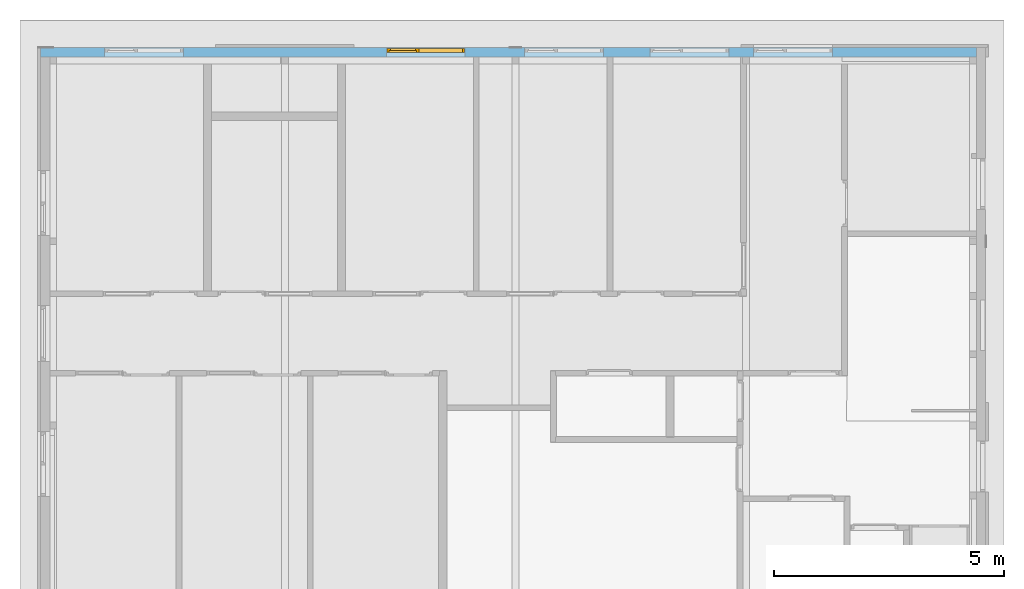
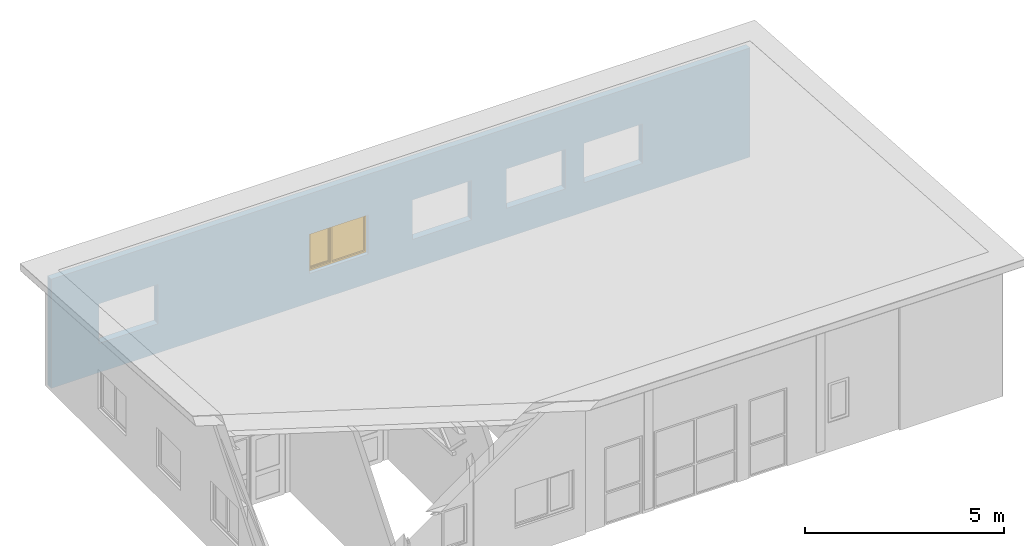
# One storey, part 26 of 37: 1 window, 5 openings, plus 1 element that does not belong to this part.
"""IFC2X3 building model written with IfcOpenShell, lengths in millimetres."""

from ifc_helpers import new_model, entity, si_unit, converted_unit, frame, frame_2d, origin, origin_with_axes, place, context, subcontext, project, spatial, rectangle, extrude, clip, halfspace, faceted_brep, material, layer, layer_set, layer_usage, type_object, element, fill, save


model = new_model("IFC2X3")

# Units and contexts
model_context = context("Model", 3, precision=1e-05, world=origin())
plan_context = context("Plan", 3, precision=1e-05, world=origin())
body_context = subcontext(model_context, "Body", "Model", "MODEL_VIEW")
ifc_project = project(units=[si_unit("LENGTHUNIT", "METRE", prefix="MILLI"), converted_unit("PLANEANGLEUNIT", "DEGREE", entity("IfcPlaneAngleMeasure", 0.0174532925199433), si_unit("PLANEANGLEUNIT", "RADIAN"), dimensions=[0, 0, 0, 0, 0, 0, 0]), si_unit("AREAUNIT", "SQUARE_METRE"), si_unit("VOLUMEUNIT", "CUBIC_METRE")], contexts=[model_context, plan_context])

# Building, storey
building_placement = place(None, origin())
building = spatial("IfcBuilding", under=ifc_project, at=building_placement, Name="HEKF Administrasjonbygg", CompositionType="ELEMENT")
storey_placement = place(building_placement, frame((0.0, 0.0, 9900.0), z_axis=(0.0, 0.0, 1.0), x_axis=(1.0, 0.0, 0.0)))
storey = spatial("IfcBuildingStorey", under=building, at=storey_placement, Name="Plan 2", CompositionType="ELEMENT", Elevation=9900.0)

# Wall, openings, window
ifc_material_1 = material(Name="Paroc 200")
ifc_layer = layer(ifc_material_1, 200.0)
ifc_layer_set = layer_set([ifc_layer])
ifc_layer_usage = layer_usage(ifc_layer_set, "AXIS2", "POSITIVE", 0.0)
wall_placement = place(storey_placement, frame((9699.999999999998, 0.0, 0.0), z_axis=(0.0, 0.0, 1.0), x_axis=(1.0, 0.0, 0.0)))
wall = element("IfcWallStandardCase", 1, at=wall_placement, inside=storey, material=ifc_layer_usage, context=body_context, shape_type="Clipping", body=[
    clip(extrude(rectangle(XDim=20300.0, YDim=200.0, at=frame_2d((10150.0, 100.0), x_axis=(1.0, 0.0))), origin_with_axes(), (0.0, 0.0, 1.0), 3349.999999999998), halfspace(frame((0.0, 0.0, 3349.999999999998), z_axis=(0.0, -0.06651901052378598, -0.9977851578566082), x_axis=(1.0, 0.0, 0.0)), True)),
])
opening_1_placement = place(wall_placement, frame((15470.0, 0.0, 900.0), z_axis=(0.0, 1.0, 0.0), x_axis=(0.0, 0.0, 1.0)))
element("IfcOpeningElement", 2, at=opening_1_placement, cuts=wall, Name="Window opening", ObjectType="Opening", context=body_context, shape_type="SweptSolid", body=[
    extrude(rectangle(XDim=1210.0, YDim=1710.0, at=frame_2d((605.0, 855.0), x_axis=(1.0, 0.0))), origin_with_axes(), (0.0, 0.0, 1.0), 200.0),
])
opening_2_placement = place(wall_placement, frame((7500.000000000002, 0.0, 900.0), z_axis=(0.0, 1.0, 0.0), x_axis=(0.0, 0.0, 1.0)))
opening_2 = element("IfcOpeningElement", 3, at=opening_2_placement, cuts=wall, Name="Window opening", ObjectType="Opening", context=body_context, shape_type="SweptSolid", body=[
    extrude(rectangle(XDim=1210.0, YDim=1710.0, at=frame_2d((605.0, 855.0), x_axis=(1.0, 0.0))), origin_with_axes(), (0.0, 0.0, 1.0), 200.0),
])
opening_3_placement = place(wall_placement, frame((13220.0, 0.0, 900.0), z_axis=(0.0, 1.0, 0.0), x_axis=(0.0, 0.0, 1.0)))
element("IfcOpeningElement", 4, at=opening_3_placement, cuts=wall, Name="Window opening", ObjectType="Opening", context=body_context, shape_type="SweptSolid", body=[
    extrude(rectangle(XDim=1210.0, YDim=1710.0, at=frame_2d((605.0, 855.0), x_axis=(1.0, 0.0))), origin_with_axes(), (0.0, 0.0, 1.0), 200.0),
])
opening_4_placement = place(wall_placement, frame((10500.0, 0.0, 900.0), z_axis=(0.0, 1.0, 0.0), x_axis=(0.0, 0.0, 1.0)))
element("IfcOpeningElement", 5, at=opening_4_placement, cuts=wall, Name="Window opening", ObjectType="Opening", context=body_context, shape_type="SweptSolid", body=[
    extrude(rectangle(XDim=1210.0, YDim=1710.0, at=frame_2d((605.0, 855.0), x_axis=(1.0, 0.0))), origin_with_axes(), (0.0, 0.0, 1.0), 200.0),
])
opening_5_placement = place(wall_placement, frame((1390.000000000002, 0.0, 900.0), z_axis=(0.0, 1.0, 0.0), x_axis=(0.0, 0.0, 1.0)))
element("IfcOpeningElement", 6, at=opening_5_placement, cuts=wall, Name="Window opening", ObjectType="Opening", context=body_context, shape_type="SweptSolid", body=[
    extrude(rectangle(XDim=1210.0, YDim=1710.0, at=frame_2d((605.0, 855.0), x_axis=(1.0, 0.0))), origin_with_axes(), (0.0, 0.0, 1.0), 200.0),
])
ifc_material_2 = material()
window_style = type_object("IfcWindowStyle", Name="V213", ConstructionType="NOTDEFINED", OperationType="USERDEFINED", ParameterTakesPrecedence=False, Sizeable=False)
window_placement = place(opening_2_placement, frame((0.0, 0.0, 0.0), z_axis=(1.0, 0.0, 0.0), x_axis=(0.0, 1.0, 0.0)))
window = element("IfcWindow", 7, at=window_placement, inside=storey, type_object=window_style, material=ifc_material_2, Name="V213", OverallHeight=1210.0, OverallWidth=1710.0, context=body_context, shape_type="Brep", body=[
    faceted_brep([(1700.0, 93.99999999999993, 1200.0), (1700.0, 94.0, 9.999999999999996), (1650.0, 94.00000000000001, 9.999999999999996), (1650.0, 93.99999999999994, 1200.0), (1700.0, 186.0, 10.0), (1700.0, 185.9999999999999, 1200.0), (1650.0, 185.9999999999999, 1200.0), (1650.0, 186.0, 10.0), (1700.0, 94.0, 9.999999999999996), (1700.0, 93.99999999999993, 1200.0), (1700.0, 185.9999999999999, 1200.0), (1700.0, 186.0, 10.0), (1650.0, 94.00000000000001, 9.999999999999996), (1700.0, 94.0, 9.999999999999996), (1700.0, 186.0, 10.0), (1650.0, 186.0, 10.0), (1650.0, 93.99999999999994, 1200.0), (1650.0, 94.00000000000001, 9.999999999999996), (1650.0, 186.0, 10.0), (1650.0, 185.9999999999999, 1200.0), (1700.0, 93.99999999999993, 1200.0), (1650.0, 93.99999999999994, 1200.0), (1650.0, 185.9999999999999, 1200.0), (1700.0, 185.9999999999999, 1200.0)], [[[0, 1, 2, 3]], [[4, 5, 6, 7]], [[8, 9, 10, 11]], [[12, 13, 14, 15]], [[16, 17, 18, 19]], [[20, 21, 22, 23]]], orient=[[False], [False], [False], [False], [False], [False]]),
    faceted_brep([(60.0, 94.00000000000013, 1200.0), (60.0, 94.0000000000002, 9.999999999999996), (10.0, 94.00000000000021, 9.999999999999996), (10.0, 94.00000000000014, 1200.0), (60.0, 186.0000000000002, 10.0), (60.0, 186.0000000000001, 1200.0), (10.0, 186.0000000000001, 1200.0), (10.0, 186.0000000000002, 10.0), (60.0, 94.0000000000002, 9.999999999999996), (60.0, 94.00000000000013, 1200.0), (60.0, 186.0000000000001, 1200.0), (60.0, 186.0000000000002, 10.0), (10.0, 94.00000000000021, 9.999999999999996), (60.0, 94.0000000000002, 9.999999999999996), (60.0, 186.0000000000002, 10.0), (10.0, 186.0000000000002, 10.0), (10.0, 94.00000000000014, 1200.0), (10.0, 94.00000000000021, 9.999999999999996), (10.0, 186.0000000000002, 10.0), (10.0, 186.0000000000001, 1200.0), (60.0, 94.00000000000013, 1200.0), (10.0, 94.00000000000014, 1200.0), (10.0, 186.0000000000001, 1200.0), (60.0, 186.0000000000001, 1200.0)], [[[0, 1, 2, 3]], [[4, 5, 6, 7]], [[8, 9, 10, 11]], [[12, 13, 14, 15]], [[16, 17, 18, 19]], [[20, 21, 22, 23]]], orient=[[False], [False], [False], [False], [False], [False]]),
    faceted_brep([(1650.0, 94.00000000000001, 60.0), (1650.0, 94.00000000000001, 9.999999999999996), (60.00000000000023, 94.0000000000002, 9.999999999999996), (60.00000000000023, 94.0000000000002, 60.0), (1650.0, 186.0, 10.0), (1650.0, 186.0, 60.0), (60.00000000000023, 186.0000000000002, 60.0), (60.00000000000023, 186.0000000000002, 10.0), (1650.0, 94.00000000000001, 9.999999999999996), (1650.0, 94.00000000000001, 60.0), (1650.0, 186.0, 60.0), (1650.0, 186.0, 10.0), (60.00000000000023, 94.0000000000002, 9.999999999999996), (1650.0, 94.00000000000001, 9.999999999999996), (1650.0, 186.0, 10.0), (60.00000000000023, 186.0000000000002, 10.0), (60.00000000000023, 94.0000000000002, 60.0), (60.00000000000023, 94.0000000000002, 9.999999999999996), (60.00000000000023, 186.0000000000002, 10.0), (60.00000000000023, 186.0000000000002, 60.0), (1650.0, 94.00000000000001, 60.0), (60.00000000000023, 94.0000000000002, 60.0), (60.00000000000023, 186.0000000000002, 60.0), (1650.0, 186.0, 60.0)], [[[0, 1, 2, 3]], [[4, 5, 6, 7]], [[8, 9, 10, 11]], [[12, 13, 14, 15]], [[16, 17, 18, 19]], [[20, 21, 22, 23]]], orient=[[False], [False], [False], [False], [False], [False]]),
    faceted_brep([(1650.0, 93.99999999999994, 1200.0), (1650.0, 93.99999999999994, 1150.0), (60.00000000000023, 94.00000000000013, 1150.0), (60.00000000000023, 94.00000000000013, 1200.0), (1650.0, 185.9999999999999, 1150.0), (1650.0, 185.9999999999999, 1200.0), (60.00000000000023, 186.0000000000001, 1200.0), (60.00000000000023, 186.0000000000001, 1150.0), (1650.0, 93.99999999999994, 1150.0), (1650.0, 93.99999999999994, 1200.0), (1650.0, 185.9999999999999, 1200.0), (1650.0, 185.9999999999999, 1150.0), (60.00000000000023, 94.00000000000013, 1150.0), (1650.0, 93.99999999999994, 1150.0), (1650.0, 185.9999999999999, 1150.0), (60.00000000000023, 186.0000000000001, 1150.0), (60.00000000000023, 94.00000000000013, 1200.0), (60.00000000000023, 94.00000000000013, 1150.0), (60.00000000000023, 186.0000000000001, 1150.0), (60.00000000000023, 186.0000000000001, 1200.0), (1650.0, 93.99999999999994, 1200.0), (60.00000000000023, 94.00000000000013, 1200.0), (60.00000000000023, 186.0000000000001, 1200.0), (1650.0, 185.9999999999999, 1200.0)], [[[0, 1, 2, 3]], [[4, 5, 6, 7]], [[8, 9, 10, 11]], [[12, 13, 14, 15]], [[16, 17, 18, 19]], [[20, 21, 22, 23]]], orient=[[False], [False], [False], [False], [False], [False]]),
    faceted_brep([(710.0000000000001, 94.00000000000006, 1150.0), (710.0000000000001, 94.00000000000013, 60.00000000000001), (660.0, 94.00000000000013, 60.00000000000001), (660.0, 94.00000000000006, 1150.0), (710.0000000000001, 186.0000000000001, 60.00000000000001), (710.0000000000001, 186.0000000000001, 1150.0), (660.0, 186.0000000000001, 1150.0), (660.0, 186.0000000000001, 60.00000000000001), (710.0000000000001, 94.00000000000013, 60.00000000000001), (710.0000000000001, 94.00000000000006, 1150.0), (710.0000000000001, 186.0000000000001, 1150.0), (710.0000000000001, 186.0000000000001, 60.00000000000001), (660.0, 94.00000000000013, 60.00000000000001), (710.0000000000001, 94.00000000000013, 60.00000000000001), (710.0000000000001, 186.0000000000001, 60.00000000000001), (660.0, 186.0000000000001, 60.00000000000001), (660.0, 94.00000000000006, 1150.0), (660.0, 94.00000000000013, 60.00000000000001), (660.0, 186.0000000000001, 60.00000000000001), (660.0, 186.0000000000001, 1150.0), (710.0000000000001, 94.00000000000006, 1150.0), (660.0, 94.00000000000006, 1150.0), (660.0, 186.0000000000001, 1150.0), (710.0000000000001, 186.0000000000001, 1150.0)], [[[0, 1, 2, 3]], [[4, 5, 6, 7]], [[8, 9, 10, 11]], [[12, 13, 14, 15]], [[16, 17, 18, 19]], [[20, 21, 22, 23]]], orient=[[False], [False], [False], [False], [False], [False]]),
    faceted_brep([(1650.0, 140.0, 60.00000000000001), (710.0000000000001, 140.0000000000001, 60.00000000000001), (710.0000000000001, 140.0000000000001, 1150.0), (1650.0, 139.9999999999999, 1150.0), (1650.0, 141.0, 60.00000000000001), (1650.0, 140.9999999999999, 1150.0), (710.0000000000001, 141.0000000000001, 1150.0), (710.0000000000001, 141.0000000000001, 60.00000000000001), (1650.0, 140.0, 60.00000000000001), (1650.0, 141.0, 60.00000000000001), (710.0000000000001, 141.0000000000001, 60.00000000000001), (710.0000000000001, 140.0000000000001, 60.00000000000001), (710.0000000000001, 140.0000000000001, 60.00000000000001), (710.0000000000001, 141.0000000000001, 60.00000000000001), (710.0000000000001, 141.0000000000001, 1150.0), (710.0000000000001, 140.0000000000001, 1150.0), (710.0000000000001, 140.0000000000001, 1150.0), (710.0000000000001, 141.0000000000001, 1150.0), (1650.0, 140.9999999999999, 1150.0), (1650.0, 139.9999999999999, 1150.0), (1650.0, 139.9999999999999, 1150.0), (1650.0, 140.9999999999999, 1150.0), (1650.0, 141.0, 60.00000000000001), (1650.0, 140.0, 60.00000000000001)], [[[0, 1, 2, 3]], [[4, 5, 6, 7]], [[8, 9, 10, 11]], [[12, 13, 14, 15]], [[16, 17, 18, 19]], [[20, 21, 22, 23]]], orient=[[False], [False], [False], [False], [False], [False]]),
    faceted_brep([(680.0000000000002, 136.0000000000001, 1170.0), (680.0000000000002, 136.0000000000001, 40.0), (630.0000000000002, 136.0000000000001, 40.0), (630.0000000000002, 136.0000000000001, 1170.0), (680.0000000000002, 186.0000000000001, 40.0), (680.0000000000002, 186.0000000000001, 1170.0), (630.0000000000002, 186.0000000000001, 1170.0), (630.0000000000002, 186.0000000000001, 40.0), (680.0000000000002, 136.0000000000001, 40.0), (680.0000000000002, 136.0000000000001, 1170.0), (680.0000000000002, 186.0000000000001, 1170.0), (680.0000000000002, 186.0000000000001, 40.0), (630.0000000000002, 136.0000000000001, 40.0), (680.0000000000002, 136.0000000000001, 40.0), (680.0000000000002, 186.0000000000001, 40.0), (630.0000000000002, 186.0000000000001, 40.0), (630.0000000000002, 136.0000000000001, 1170.0), (630.0000000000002, 136.0000000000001, 40.0), (630.0000000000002, 186.0000000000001, 40.0), (630.0000000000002, 186.0000000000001, 1170.0), (680.0000000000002, 136.0000000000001, 1170.0), (630.0000000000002, 136.0000000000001, 1170.0), (630.0000000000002, 186.0000000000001, 1170.0), (680.0000000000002, 186.0000000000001, 1170.0)], [[[0, 1, 2, 3]], [[4, 5, 6, 7]], [[8, 9, 10, 11]], [[12, 13, 14, 15]], [[16, 17, 18, 19]], [[20, 21, 22, 23]]], orient=[[False], [False], [False], [False], [False], [False]]),
    faceted_brep([(90.00000000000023, 136.0000000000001, 1170.0), (90.00000000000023, 136.0000000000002, 40.0), (40.00000000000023, 136.0000000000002, 40.0), (40.00000000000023, 136.0000000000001, 1170.0), (90.00000000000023, 186.0000000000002, 40.0), (90.00000000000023, 186.0000000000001, 1170.0), (40.00000000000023, 186.0000000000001, 1170.0), (40.00000000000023, 186.0000000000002, 40.0), (90.00000000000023, 136.0000000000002, 40.0), (90.00000000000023, 136.0000000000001, 1170.0), (90.00000000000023, 186.0000000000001, 1170.0), (90.00000000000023, 186.0000000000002, 40.0), (40.00000000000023, 136.0000000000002, 40.0), (90.00000000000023, 136.0000000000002, 40.0), (90.00000000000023, 186.0000000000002, 40.0), (40.00000000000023, 186.0000000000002, 40.0), (40.00000000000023, 136.0000000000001, 1170.0), (40.00000000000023, 136.0000000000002, 40.0), (40.00000000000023, 186.0000000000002, 40.0), (40.00000000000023, 186.0000000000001, 1170.0), (90.00000000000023, 136.0000000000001, 1170.0), (40.00000000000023, 136.0000000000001, 1170.0), (40.00000000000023, 186.0000000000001, 1170.0), (90.00000000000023, 186.0000000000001, 1170.0)], [[[0, 1, 2, 3]], [[4, 5, 6, 7]], [[8, 9, 10, 11]], [[12, 13, 14, 15]], [[16, 17, 18, 19]], [[20, 21, 22, 23]]], orient=[[False], [False], [False], [False], [False], [False]]),
    faceted_brep([(630.0000000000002, 136.0000000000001, 90.0), (630.0000000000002, 136.0000000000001, 40.0), (90.00000000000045, 136.0000000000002, 40.0), (90.00000000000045, 136.0000000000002, 90.0), (630.0000000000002, 186.0000000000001, 40.0), (630.0000000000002, 186.0000000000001, 90.0), (90.00000000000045, 186.0000000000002, 90.0), (90.00000000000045, 186.0000000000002, 40.0), (630.0000000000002, 136.0000000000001, 40.0), (630.0000000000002, 136.0000000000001, 90.0), (630.0000000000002, 186.0000000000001, 90.0), (630.0000000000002, 186.0000000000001, 40.0), (90.00000000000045, 136.0000000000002, 40.0), (630.0000000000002, 136.0000000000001, 40.0), (630.0000000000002, 186.0000000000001, 40.0), (90.00000000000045, 186.0000000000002, 40.0), (90.00000000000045, 136.0000000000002, 90.0), (90.00000000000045, 136.0000000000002, 40.0), (90.00000000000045, 186.0000000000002, 40.0), (90.00000000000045, 186.0000000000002, 90.0), (630.0000000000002, 136.0000000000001, 90.0), (90.00000000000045, 136.0000000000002, 90.0), (90.00000000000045, 186.0000000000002, 90.0), (630.0000000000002, 186.0000000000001, 90.0)], [[[0, 1, 2, 3]], [[4, 5, 6, 7]], [[8, 9, 10, 11]], [[12, 13, 14, 15]], [[16, 17, 18, 19]], [[20, 21, 22, 23]]], orient=[[False], [False], [False], [False], [False], [False]]),
    faceted_brep([(630.0000000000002, 136.0000000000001, 1170.0), (630.0000000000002, 136.0000000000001, 1120.0), (90.00000000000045, 136.0000000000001, 1120.0), (90.00000000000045, 136.0000000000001, 1170.0), (630.0000000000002, 186.0000000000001, 1120.0), (630.0000000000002, 186.0000000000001, 1170.0), (90.00000000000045, 186.0000000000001, 1170.0), (90.00000000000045, 186.0000000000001, 1120.0), (630.0000000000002, 136.0000000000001, 1120.0), (630.0000000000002, 136.0000000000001, 1170.0), (630.0000000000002, 186.0000000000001, 1170.0), (630.0000000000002, 186.0000000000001, 1120.0), (90.00000000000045, 136.0000000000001, 1120.0), (630.0000000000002, 136.0000000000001, 1120.0), (630.0000000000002, 186.0000000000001, 1120.0), (90.00000000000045, 186.0000000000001, 1120.0), (90.00000000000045, 136.0000000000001, 1170.0), (90.00000000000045, 136.0000000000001, 1120.0), (90.00000000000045, 186.0000000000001, 1120.0), (90.00000000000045, 186.0000000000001, 1170.0), (630.0000000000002, 136.0000000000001, 1170.0), (90.00000000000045, 136.0000000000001, 1170.0), (90.00000000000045, 186.0000000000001, 1170.0), (630.0000000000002, 186.0000000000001, 1170.0)], [[[0, 1, 2, 3]], [[4, 5, 6, 7]], [[8, 9, 10, 11]], [[12, 13, 14, 15]], [[16, 17, 18, 19]], [[20, 21, 22, 23]]], orient=[[False], [False], [False], [False], [False], [False]]),
    faceted_brep([(630.0000000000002, 161.0000000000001, 90.00000000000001), (90.00000000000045, 161.0000000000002, 90.00000000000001), (90.00000000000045, 161.0000000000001, 1120.0), (630.0000000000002, 161.0000000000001, 1120.0), (630.0000000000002, 162.0000000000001, 90.00000000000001), (630.0000000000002, 162.0000000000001, 1120.0), (90.00000000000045, 162.0000000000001, 1120.0), (90.00000000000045, 162.0000000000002, 90.00000000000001), (630.0000000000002, 161.0000000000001, 90.00000000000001), (630.0000000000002, 162.0000000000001, 90.00000000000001), (90.00000000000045, 162.0000000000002, 90.00000000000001), (90.00000000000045, 161.0000000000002, 90.00000000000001), (90.00000000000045, 161.0000000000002, 90.00000000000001), (90.00000000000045, 162.0000000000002, 90.00000000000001), (90.00000000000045, 162.0000000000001, 1120.0), (90.00000000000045, 161.0000000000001, 1120.0), (90.00000000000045, 161.0000000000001, 1120.0), (90.00000000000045, 162.0000000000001, 1120.0), (630.0000000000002, 162.0000000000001, 1120.0), (630.0000000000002, 161.0000000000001, 1120.0), (630.0000000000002, 161.0000000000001, 1120.0), (630.0000000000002, 162.0000000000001, 1120.0), (630.0000000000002, 162.0000000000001, 90.00000000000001), (630.0000000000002, 161.0000000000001, 90.00000000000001)], [[[0, 1, 2, 3]], [[4, 5, 6, 7]], [[8, 9, 10, 11]], [[12, 13, 14, 15]], [[16, 17, 18, 19]], [[20, 21, 22, 23]]], orient=[[False], [False], [False], [False], [False], [False]]),
])
fill(opening_2, window)

save(model, "model.ifc")
